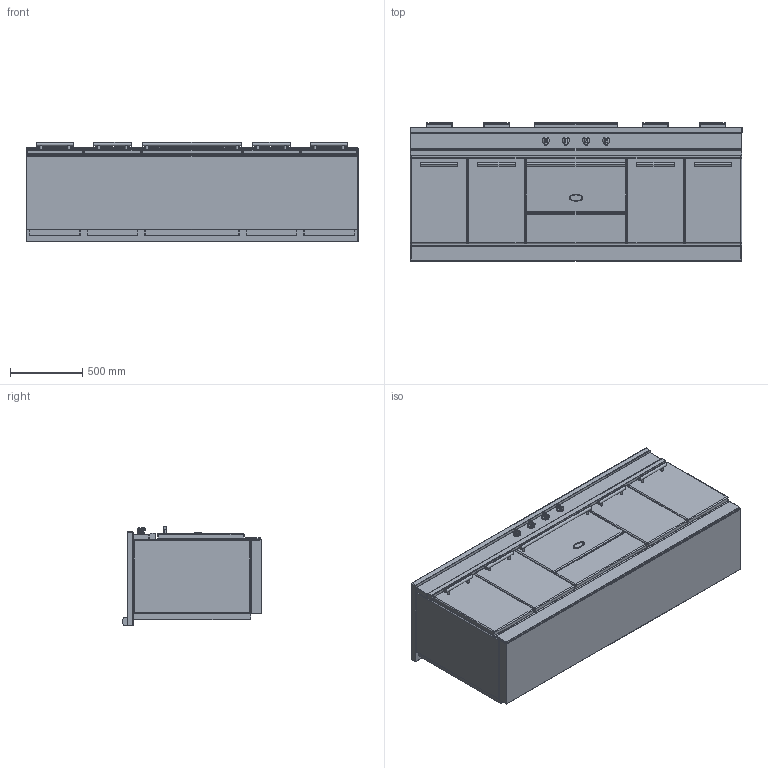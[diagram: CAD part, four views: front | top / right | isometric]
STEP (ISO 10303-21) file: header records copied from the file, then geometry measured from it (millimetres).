
FILE_DESCRIPTION((''),'2;1');
FILE_NAME('LMVI2331_ASM','2022-04-13T13:18:25',('stagiaire'),(''),'CREO PARAMETRIC BY PTC INC, 2021424','CREO PARAMETRIC BY PTC INC, 2021424','');
FILE_SCHEMA(('AP203_CONFIGURATION_CONTROLLED_3D_DESIGN_OF_MECHANICAL_PARTS_AND_ASSEMBLIES_MIM_LF { 1 0 10303 403 2 1 2 }'));
Products named in the file (13): BASE_EXPORT_FONTENAY_LMVI2331; 65049009; 65650001; 65064012; 19150009; 88064012_ASM; BASE_EXPORT_FONTENAY_LMVI2331_ASM; TABLE_2300_INDUCTION_ET_VTR; 65052012; CHEMINEE_2020_LG582_EXPORT_STEP; CHEMINEE_2020_LG182_EXPORT_STEP; TABLE_2300_INDUCTION_ASM; LMVI2331_ASM
Assembly tree (18 placements, depth 4):
  LMVI2331_ASM
    BASE_EXPORT_FONTENAY_LMVI2331_ASM
      BASE_EXPORT_FONTENAY_LMVI2331
      65049009
      65650001
      88064012_ASM  x4
        65064012
        19150009
    TABLE_2300_INDUCTION_ASM
      TABLE_2300_INDUCTION_ET_VTR
      65052012
      CHEMINEE_2020_LG582_EXPORT_STEP
      CHEMINEE_2020_LG182_EXPORT_STEP  x4
Bounding box: 2305 x 963 x 688.5 mm (x, y, z)
Volume: 1247455011.9 mm3; surface area: 17121187.5 mm2
Topology: 22 solids, 22 shells, 3272 faces, 9676 edges, 6218 vertices
Faces by surface type: plane 1484, cylinder 1306, sphere 198, bspline 182, torus 78, cone 22, extrusion 2
Entity records: 89415 total; most frequent: CARTESIAN_POINT 22118, ORIENTED_EDGE 11986, DIRECTION 11909, EDGE_CURVE 5993, VECTOR 4425, LINE 4423, VERTEX_POINT 3829, AXIS2_PLACEMENT_3D 3724
